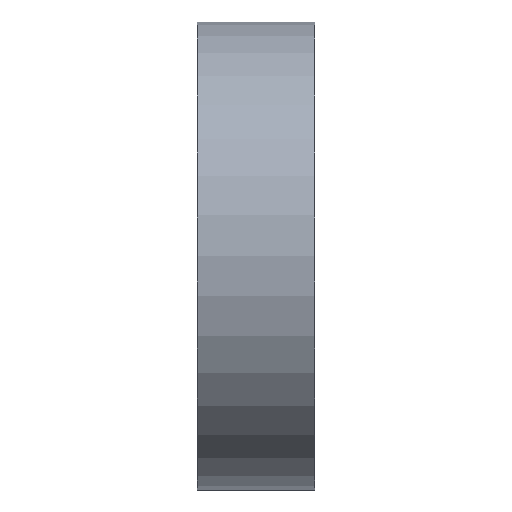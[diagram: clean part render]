
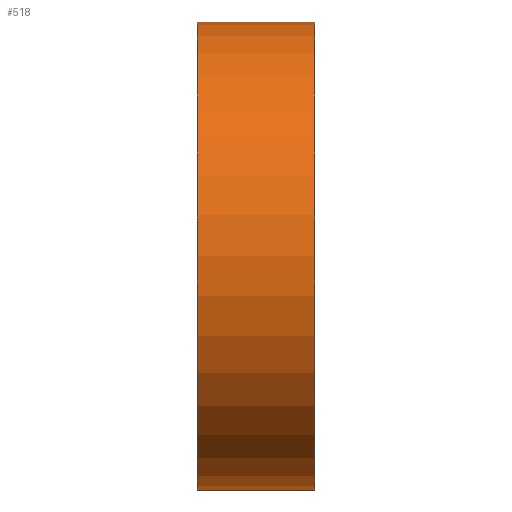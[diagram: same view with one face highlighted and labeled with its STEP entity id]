
A CAD part, top view. The second image highlights one B-rep face of the part: STEP entity #518.
In plain terms, the highlighted cylindrical face has radius 24 mm (diameter 48 mm), a full revolution.
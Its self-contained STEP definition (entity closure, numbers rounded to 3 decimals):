
#63=FACE_OUTER_BOUND('',#93,.T.);
#93=EDGE_LOOP('',(#487,#488,#489,#490));
#142=LINE('',#871,#189);
#189=VECTOR('',#721,24.);
#216=CIRCLE('',#569,24.);
#217=CIRCLE('',#571,24.);
#266=VERTEX_POINT('',#866);
#267=VERTEX_POINT('',#869);
#340=EDGE_CURVE('',#266,#266,#216,.T.);
#341=EDGE_CURVE('',#267,#267,#217,.T.);
#342=EDGE_CURVE('',#267,#266,#142,.T.);
#487=ORIENTED_EDGE('',*,*,#341,.F.);
#488=ORIENTED_EDGE('',*,*,#342,.T.);
#489=ORIENTED_EDGE('',*,*,#340,.F.);
#490=ORIENTED_EDGE('',*,*,#342,.F.);
#496=CYLINDRICAL_SURFACE('',#570,24.);
#518=ADVANCED_FACE('',(#63),#496,.T.);
#569=AXIS2_PLACEMENT_3D('',#867,#715,#716);
#570=AXIS2_PLACEMENT_3D('',#868,#717,#718);
#571=AXIS2_PLACEMENT_3D('',#870,#719,#720);
#715=DIRECTION('center_axis',(1.,0.,0.));
#716=DIRECTION('ref_axis',(0.,-0.766,-0.643));
#717=DIRECTION('center_axis',(-1.,0.,0.));
#718=DIRECTION('ref_axis',(0.,-0.766,-0.643));
#719=DIRECTION('center_axis',(-1.,0.,0.));
#720=DIRECTION('ref_axis',(0.,-0.766,-0.643));
#721=DIRECTION('',(1.,0.,0.));
#866=CARTESIAN_POINT('',(-4.,54.385,30.927));
#867=CARTESIAN_POINT('Origin',(-4.,36.,15.5));
#868=CARTESIAN_POINT('Origin',(-10.,36.,15.5));
#869=CARTESIAN_POINT('',(-16.,54.385,30.927));
#870=CARTESIAN_POINT('Origin',(-16.,36.,15.5));
#871=CARTESIAN_POINT('',(-10.,54.385,30.927));
